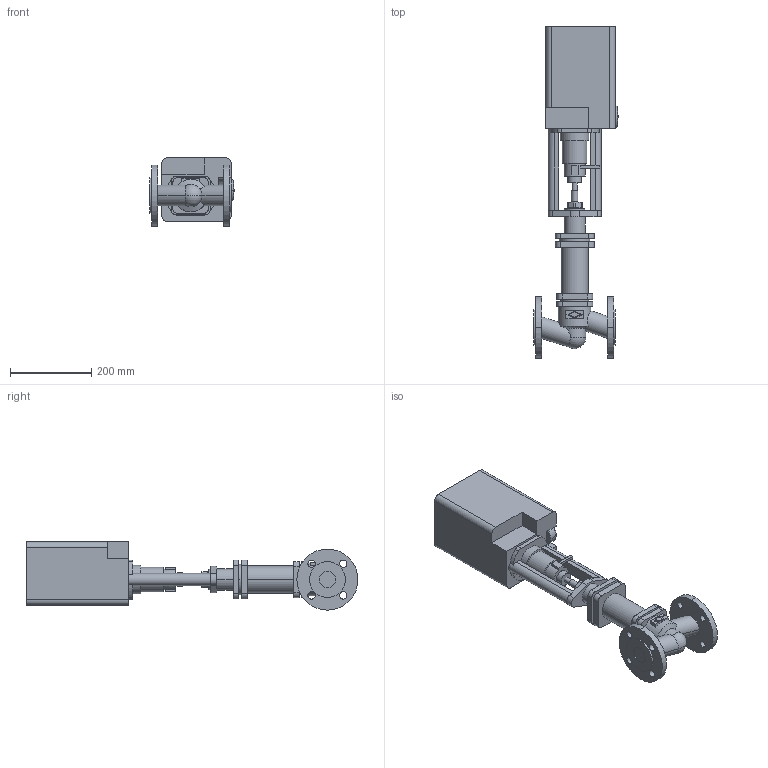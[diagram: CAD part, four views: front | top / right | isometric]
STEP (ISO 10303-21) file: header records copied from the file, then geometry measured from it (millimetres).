
FILE_DESCRIPTION(('CoCreate Modeling STEP Export'),'2;1');
FILE_NAME('c000000368.stp','2011-10-12T 7:48:52',(''),(''),'CoCreate Modeling STEP processor for AP214 (Solid Model)','CoCreate Modeling 17.0 01-Apr-2010 (C) Parametric Technology GmbH','');
FILE_SCHEMA(('AUTOMOTIVE_DESIGN { 1 0 10303 214 1 1 1 1 }'));
Length unit declared in the file: millimetre
Products named in the file (2): 1; 2
Bounding box: 206.5 x 815 x 167.5 mm (x, y, z)
Volume: 9333287.4 mm3; surface area: 520696.7 mm2
Topology: 2 solids, 2 shells, 226 faces, 571 edges, 377 vertices
Faces by surface type: plane 109, cylinder 105, sphere 6, torus 4, cone 2
Entity records: 8430 total; most frequent: CARTESIAN_POINT 1337, ORIENTED_EDGE 1138, DIRECTION 1028, EDGE_CURVE 569, VERTEX_POINT 377, AXIS2_PLACEMENT_3D 357, VECTOR 314, LINE 314
